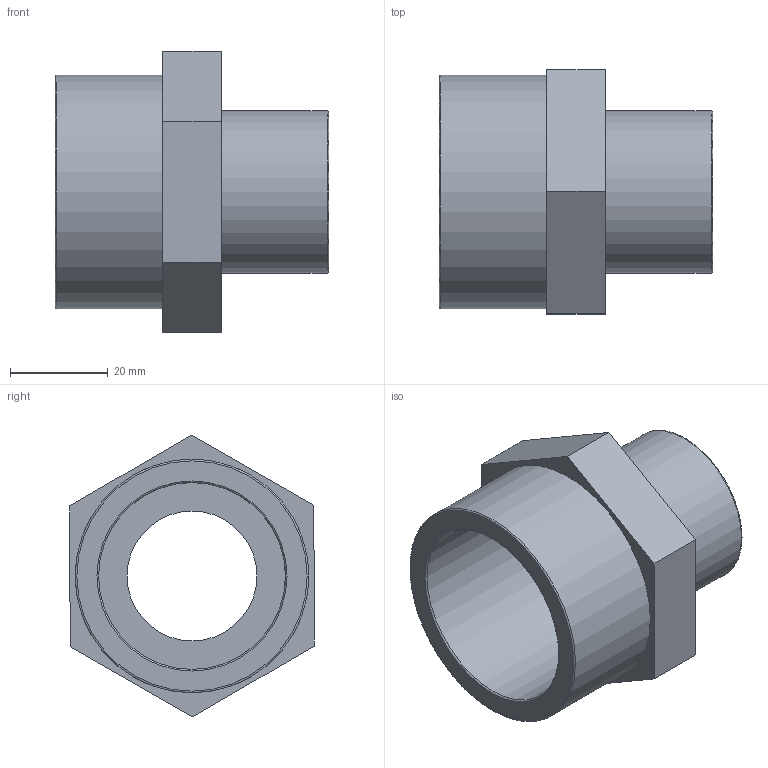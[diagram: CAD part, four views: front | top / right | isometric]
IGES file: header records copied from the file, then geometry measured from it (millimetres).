
Global section: file name: 051601015010.ipt; native system: Autodesk Inventor 2015; preprocessor: unknown; author: KIM; date: 20171207.165300; units: millimetre
Bounding box: 56 x 50.11 x 57.73 mm (x, y, z)
Volume: 35886.2 mm3; surface area: 16596 mm2
Topology: 1 solids, 1 shells, 19 faces, 50 edges, 36 vertices
Faces by surface type: plane 11, revolution 6, cylinder 2
Full cylindrical faces by diameter (mm): 33.249 x1, 47.803 x1
